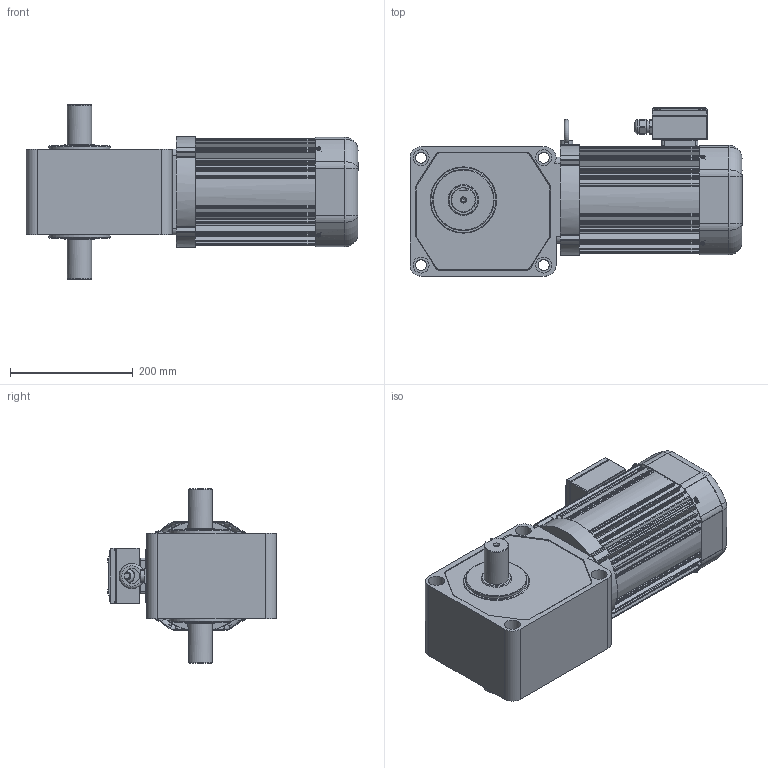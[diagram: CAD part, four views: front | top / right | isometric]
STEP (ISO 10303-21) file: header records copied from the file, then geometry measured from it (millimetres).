
FILE_DESCRIPTION(/* description */ (''),/* implementation_level */ '2;1');
FILE_NAME(/* name */ 'Z:\동력 3D 파일\PCS40B_1.5kW_3D.stp',/* time_stamp */ '2021-11-09T13:32:27+09:00',/* author */ ('jaebok'),/* organization */ (''),/* preprocessor_version */ 'ST-DEVELOPER v18.1',/* originating_system */ 'Autodesk Inventor 2022',/* authorisation */ '');
FILE_SCHEMA (('AUTOMOTIVE_DESIGN { 1 0 10303 214 3 1 1 }'));
Products named in the file (1): 부품71
Bounding box: 541 x 274.5 x 284 mm (x, y, z)
Volume: 9236272 mm3; surface area: 878036.3 mm2
Topology: 1 solids, 25 shells, 1770 faces, 4652 edges, 2930 vertices
Faces by surface type: plane 715, cylinder 649, bspline 238, torus 87, cone 61, sphere 20
Full cylindrical faces by diameter (mm): 3.25 x1, 3.6 x4, 4 x22, 4.917 x4, 5 x17, 6 x1, 6.647 x2, 7 x12, 8 x1, 8.8 x1, 10 x3, 12.5 x1, 15 x1, 18 x4, 20 x2, 21 x1, 23.6 x1, 25 x2, 26 x5, 36 x1, 38 x1, 40 x2, 52 x1, 100 x2, 156 x1, 160 x2, 161 x1, 165.4 x2, 168 x4
Entity records: 64444 total; most frequent: CARTESIAN_POINT 19777, ORIENTED_EDGE 9178, DIRECTION 8833, EDGE_CURVE 4589, AXIS2_PLACEMENT_3D 3374, VERTEX_POINT 2929, LINE 2085, VECTOR 2085
